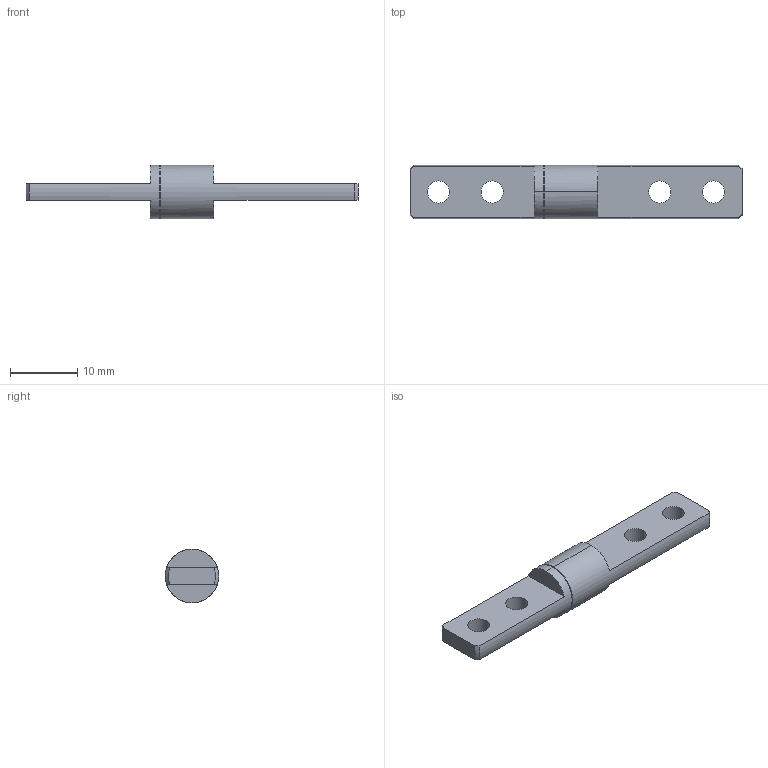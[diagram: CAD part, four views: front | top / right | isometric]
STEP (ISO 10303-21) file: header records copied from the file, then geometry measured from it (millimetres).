
FILE_DESCRIPTION (( 'STEP AP203' ), '1' );
FILE_NAME ('XG11-076-7.STEP', '2025-07-12T01:10:14', ( '微软用户' ), ( '微软中国' ), 'SwSTEP 2.0', 'SolidWorks 2024', '' );
FILE_SCHEMA (( 'CONFIG_CONTROL_DESIGN' ));
Length unit declared in the file: millimetre
Products named in the file (1): XG11-076-7
Bounding box: 49.5 x 8 x 8 mm (x, y, z)
Volume: 1177.4 mm3; surface area: 1183.3 mm2
Topology: 1 solids, 1 shells, 30 faces, 78 edges, 50 vertices
Faces by surface type: cylinder 12, plane 10, torus 4, cone 4
Entity records: 1037 total; most frequent: CARTESIAN_POINT 183, DIRECTION 174, ORIENTED_EDGE 156, EDGE_CURVE 78, AXIS2_PLACEMENT_3D 73, VERTEX_POINT 50, CIRCLE 42, EDGE_LOOP 38
